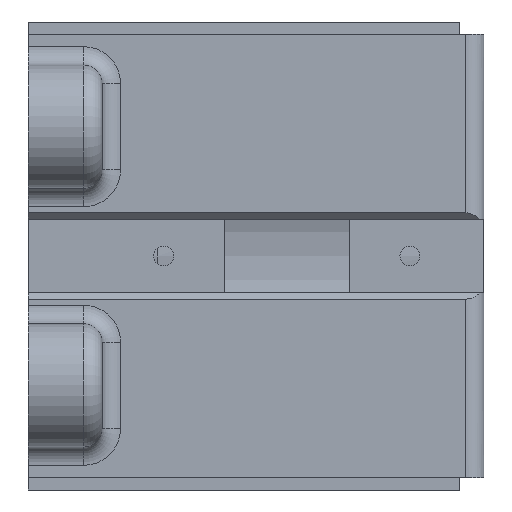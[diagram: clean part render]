
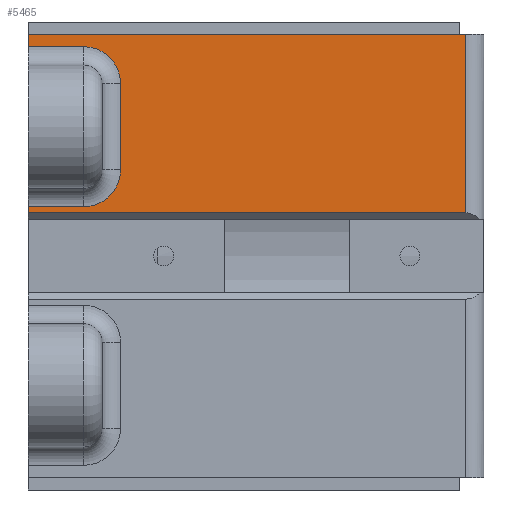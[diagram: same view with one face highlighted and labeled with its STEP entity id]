
A CAD part, front view. The second image highlights one B-rep face of the part: STEP entity #5465.
In plain terms, the highlighted planar face has unit normal (0, -1, 0).
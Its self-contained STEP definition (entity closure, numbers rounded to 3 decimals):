
#383=CIRCLE('',#5809,6.);
#384=CIRCLE('',#5810,6.);
#520=FACE_OUTER_BOUND('',#839,.T.);
#839=EDGE_LOOP('',(#3658,#3659,#3660,#3661,#3662,#3663,#3664,#3665,#3666,
#3667));
#1208=LINE('',#7492,#1743);
#1211=LINE('',#7498,#1746);
#1212=LINE('',#7500,#1747);
#1213=LINE('',#7502,#1748);
#1214=LINE('',#7504,#1749);
#1215=LINE('',#7508,#1750);
#1216=LINE('',#7512,#1751);
#1217=LINE('',#7513,#1752);
#1743=VECTOR('',#6193,10.);
#1746=VECTOR('',#6198,10.);
#1747=VECTOR('',#6199,10.);
#1748=VECTOR('',#6200,10.);
#1749=VECTOR('',#6201,10.);
#1750=VECTOR('',#6204,10.);
#1751=VECTOR('',#6207,10.);
#1752=VECTOR('',#6208,10.);
#2281=VERTEX_POINT('',#7489);
#2282=VERTEX_POINT('',#7491);
#2284=VERTEX_POINT('',#7497);
#2285=VERTEX_POINT('',#7499);
#2286=VERTEX_POINT('',#7501);
#2287=VERTEX_POINT('',#7503);
#2288=VERTEX_POINT('',#7505);
#2289=VERTEX_POINT('',#7507);
#2290=VERTEX_POINT('',#7509);
#2291=VERTEX_POINT('',#7511);
#2828=EDGE_CURVE('',#2281,#2282,#1208,.T.);
#2831=EDGE_CURVE('',#2284,#2281,#1211,.T.);
#2832=EDGE_CURVE('',#2284,#2285,#1212,.T.);
#2833=EDGE_CURVE('',#2286,#2285,#1213,.T.);
#2834=EDGE_CURVE('',#2287,#2286,#1214,.T.);
#2835=EDGE_CURVE('',#2288,#2287,#383,.T.);
#2836=EDGE_CURVE('',#2289,#2288,#1215,.T.);
#2837=EDGE_CURVE('',#2290,#2289,#384,.T.);
#2838=EDGE_CURVE('',#2291,#2290,#1216,.T.);
#2839=EDGE_CURVE('',#2282,#2291,#1217,.T.);
#3658=ORIENTED_EDGE('',*,*,#2828,.F.);
#3659=ORIENTED_EDGE('',*,*,#2831,.F.);
#3660=ORIENTED_EDGE('',*,*,#2832,.T.);
#3661=ORIENTED_EDGE('',*,*,#2833,.F.);
#3662=ORIENTED_EDGE('',*,*,#2834,.F.);
#3663=ORIENTED_EDGE('',*,*,#2835,.F.);
#3664=ORIENTED_EDGE('',*,*,#2836,.F.);
#3665=ORIENTED_EDGE('',*,*,#2837,.F.);
#3666=ORIENTED_EDGE('',*,*,#2838,.F.);
#3667=ORIENTED_EDGE('',*,*,#2839,.F.);
#5309=PLANE('',#5808);
#5465=ADVANCED_FACE('',(#520),#5309,.T.);
#5808=AXIS2_PLACEMENT_3D('',#7496,#6196,#6197);
#5809=AXIS2_PLACEMENT_3D('',#7506,#6202,#6203);
#5810=AXIS2_PLACEMENT_3D('',#7510,#6205,#6206);
#6193=DIRECTION('',(-1.,0.,0.));
#6196=DIRECTION('center_axis',(0.,-1.,0.));
#6197=DIRECTION('ref_axis',(0.,0.,-1.));
#6198=DIRECTION('',(0.,0.,-1.));
#6199=DIRECTION('',(-1.,0.,0.));
#6200=DIRECTION('',(0.,0.,1.));
#6201=DIRECTION('',(-1.,0.,0.));
#6202=DIRECTION('center_axis',(0.,-1.,0.));
#6203=DIRECTION('ref_axis',(0.707,0.,0.707));
#6204=DIRECTION('',(0.,0.,1.));
#6205=DIRECTION('center_axis',(0.,-1.,0.));
#6206=DIRECTION('ref_axis',(0.707,0.,-0.707));
#6207=DIRECTION('',(1.,0.,0.));
#6208=DIRECTION('',(0.,0.,1.));
#7489=CARTESIAN_POINT('',(34.,-52.,7.));
#7491=CARTESIAN_POINT('',(-37.,-52.,7.));
#7492=CARTESIAN_POINT('',(18.5,-52.,7.));
#7496=CARTESIAN_POINT('Origin',(0.,-52.,38.));
#7497=CARTESIAN_POINT('',(34.,-52.,36.));
#7498=CARTESIAN_POINT('',(34.,-52.,19.));
#7499=CARTESIAN_POINT('',(-37.,-52.,36.));
#7500=CARTESIAN_POINT('',(-18.5,-52.,36.));
#7501=CARTESIAN_POINT('',(-37.,-52.,34.));
#7502=CARTESIAN_POINT('',(-37.,-52.,38.));
#7503=CARTESIAN_POINT('',(-28.,-52.,34.));
#7504=CARTESIAN_POINT('',(-18.5,-52.,34.));
#7505=CARTESIAN_POINT('',(-22.,-52.,28.));
#7506=CARTESIAN_POINT('Origin',(-28.,-52.,28.));
#7507=CARTESIAN_POINT('',(-22.,-52.,14.));
#7508=CARTESIAN_POINT('',(-22.,-52.,29.5));
#7509=CARTESIAN_POINT('',(-28.,-52.,8.));
#7510=CARTESIAN_POINT('Origin',(-28.,-52.,14.));
#7511=CARTESIAN_POINT('',(-37.,-52.,8.));
#7512=CARTESIAN_POINT('',(-18.5,-52.,8.));
#7513=CARTESIAN_POINT('',(-37.,-52.,38.));
